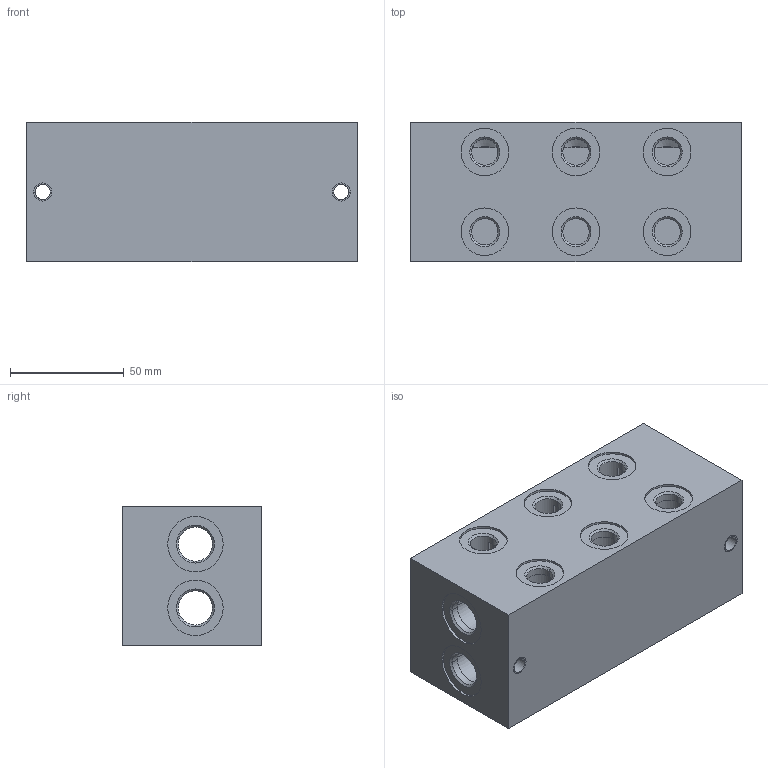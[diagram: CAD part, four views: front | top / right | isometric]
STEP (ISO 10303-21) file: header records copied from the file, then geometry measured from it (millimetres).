
FILE_DESCRIPTION((''),'2;1');
FILE_NAME('760_6830','2015-11-27T',('Ahcz.brigadnik05'),(''),'PRO/ENGINEER BY PARAMETRIC TECHNOLOGY CORPORATION, 2015110','PRO/ENGINEER BY PARAMETRIC TECHNOLOGY CORPORATION, 2015110','');
FILE_SCHEMA(('AUTOMOTIVE_DESIGN { 1 0 10303 214 1 1 1 1 }'));
Length unit declared in the file: millimetre
Products named in the file (1): 760_6830
Bounding box: 145 x 61 x 61 mm (x, y, z)
Volume: 211544.9 mm3; surface area: 86053.8 mm2
Topology: 1 solids, 25 shells, 229 faces, 1303 edges, 1238 vertices
Faces by surface type: cylinder 153, plane 50, cone 26
Entity records: 14131 total; most frequent: CARTESIAN_POINT 2752, DIRECTION 2067, ORIENTED_EDGE 1162, VECTOR 899, LINE 899, TRIMMED_CURVE 673, EDGE_CURVE 629, CURVE_STYLE 599
